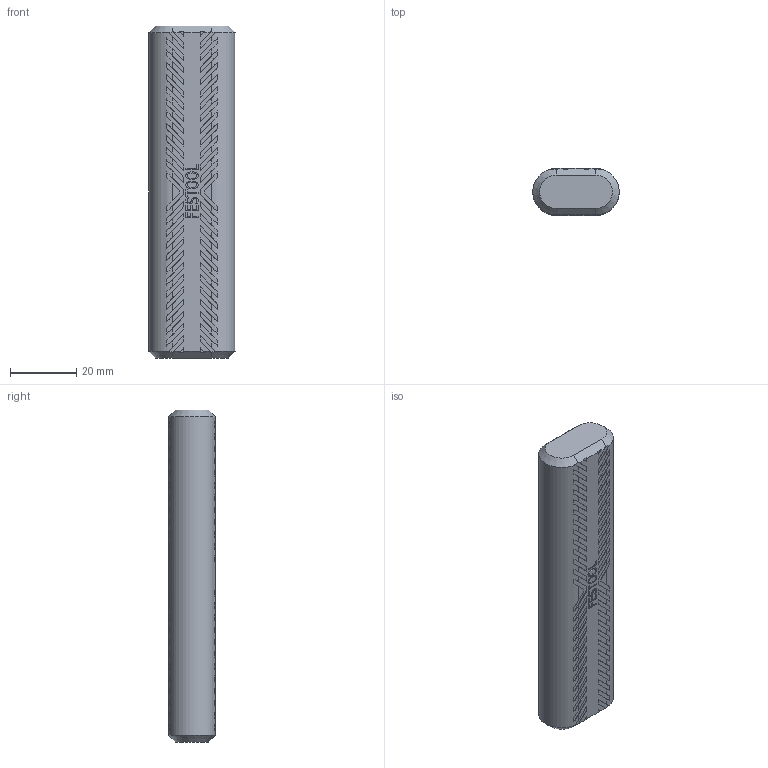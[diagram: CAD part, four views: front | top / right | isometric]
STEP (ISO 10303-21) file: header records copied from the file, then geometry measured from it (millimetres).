
FILE_DESCRIPTION(('Creo Elements/Direct Modeling STEP Export'),'2;1');
FILE_NAME('Domino_14x100.stp','2024-01-19T 8:04:17',(''),(''),'Creo Elements/Direct Modeling STEP processor for AP214 (Solid Model)','Creo Elements/Direct Modeling 20.5A 14-Oct-2022 (C) Parametric Technology GmbH','');
FILE_SCHEMA(('AUTOMOTIVE_DESIGN { 1 0 10303 214 1 1 1 1 }'));
Length unit declared in the file: millimetre
Products named in the file (1): 14x100_00701427
Bounding box: 25.95 x 14 x 100 mm (x, y, z)
Volume: 31765.7 mm3; surface area: 7632.3 mm2
Topology: 1 solids, 1 shells, 958 faces, 2787 edges, 1858 vertices
Faces by surface type: plane 952, cone 4, cylinder 2
Entity records: 29977 total; most frequent: ORIENTED_EDGE 5574, CARTESIAN_POINT 5480, DIRECTION 4465, EDGE_CURVE 2787, VECTOR 2363, LINE 2363, VERTEX_POINT 1858, AXIS2_PLACEMENT_3D 1051
